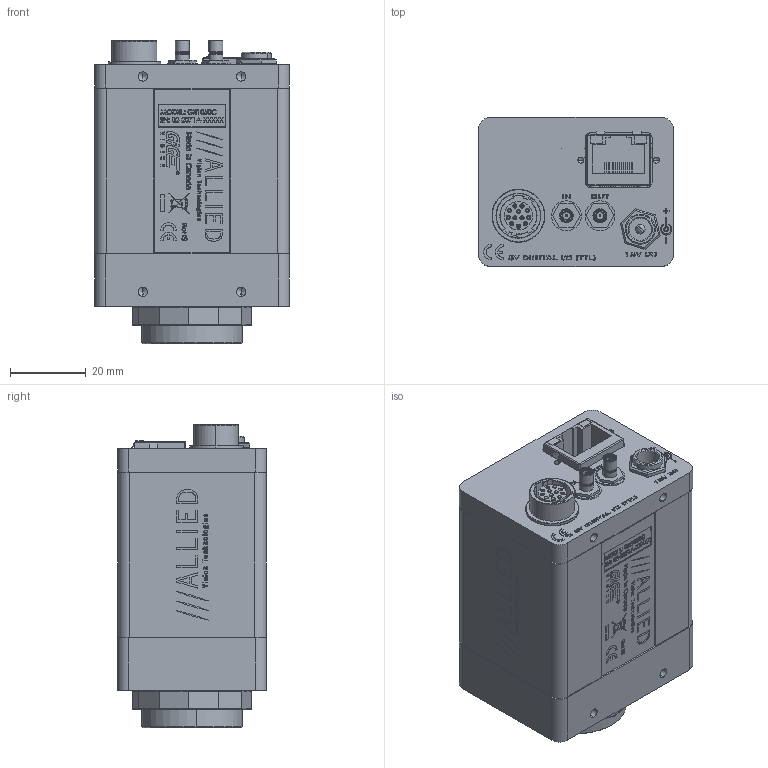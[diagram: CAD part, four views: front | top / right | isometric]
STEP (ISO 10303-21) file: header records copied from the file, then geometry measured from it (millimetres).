
FILE_DESCRIPTION (( 'STEP AP214' ), '1' );
FILE_NAME ('GE1050C.STEP', '2013-07-31T21:18:26', ( '' ), ( '' ), 'SwSTEP 2.0', 'SolidWorks 2013', '' );
FILE_SCHEMA (( 'AUTOMOTIVE_DESIGN' ));
Length unit declared in the file: millimetre
Products named in the file (37): 440002-IR CUT FILTER 22MM DIA; 140002-KEYSTONE 349; 110054AB-IR FILTER SUPPORT; 260010-HIROSE HR10A-10R-12SB NUT; 110003AC-CV CMOUNT RING; 260014-SWITCHCRAFT PC712A NUT; 110053AA-GE KODAK 2M CCD DUST SHIELD GASKET; 110033B-C GE BACK PLATE; 140000-AMPHENOL 903-10408-1; 110085A-GE1050 FRONT PLATE; 260009-AMPHENOL 903-406J-51R; 220136-KODAK KAI-01050-CBA; 100000AA-CV SMB GROUNDING ASSEMBLY; KODAK KAI-01050 WINDOW; 270006-JUMPER WIRE MODIFIED; KODAK KAI-01050 BODY; 140001-AMPHENOL 903-10409-1; 110031A-B EC-CCD LOCKING RING; 140008-washer spring lock #4; 740031B-GE SERIES LABEL; 200031B-A GE INTERFACE PCB ASSY; 110036B GE COVER EXTRUDED SHORT WITH LOGO_Finished; 260029 BELFUSE 0826-1C1T-23; 100137A - GE CAMERA BACK ASSEMBLY - for GE KODAK 1M2M; 140015-screw pan head phillips 4-40 x 0.1875; 100051B - GE BACKPLATE ASSY; 140034-SWITCHCRAFT P10149 WITH WIRE; 140007-screw socket head cap #4-40x2; 140034-SWITCHCRAFT P10149; 270006-JUMPER WIRE 18MM LONG; 740054A-A GE1050C LABEL PRINT; GE1050C; 260010-HIROSE HR10A-10R-12SB; 100104A-GE1050C FRONT ASSY; 260014-SWITCHCRAFT PC712A; 100097A-IR FILTER ASSEMBLY 0.75 INCH; 260010-HIROSE HR10A-10R-12SB WASHER
Assembly tree (50 placements, depth 5):
  GE1050C
    140007-screw socket head cap #4-40x2  x4
    100137A - GE CAMERA BACK ASSEMBLY - for GE KODAK 1M2M
      140015-screw pan head phillips 4-40 x 0.1875
      200031B-A GE INTERFACE PCB ASSY
        260029 BELFUSE 0826-1C1T-23
      140008-washer spring lock #4  x2
      100051B - GE BACKPLATE ASSY
        100000AA-CV SMB GROUNDING ASSEMBLY  x2
          140001-AMPHENOL 903-10409-1
          270006-JUMPER WIRE MODIFIED
        260009-AMPHENOL 903-406J-51R  x2
        140000-AMPHENOL 903-10408-1  x2
        110033B-C GE BACK PLATE
        260014-SWITCHCRAFT PC712A NUT
        260010-HIROSE HR10A-10R-12SB NUT
        140002-KEYSTONE 349  x4
        260010-HIROSE HR10A-10R-12SB WASHER
        260014-SWITCHCRAFT PC712A
        260010-HIROSE HR10A-10R-12SB
        140034-SWITCHCRAFT P10149 WITH WIRE
          270006-JUMPER WIRE 18MM LONG
          140034-SWITCHCRAFT P10149
    110036B GE COVER EXTRUDED SHORT WITH LOGO_Finished
    140008-washer spring lock #4  x4
    740031B-GE SERIES LABEL
    100104A-GE1050C FRONT ASSY
      110031A-B EC-CCD LOCKING RING
      220136-KODAK KAI-01050-CBA
        KODAK KAI-01050 BODY
        KODAK KAI-01050 WINDOW
      110085A-GE1050 FRONT PLATE
      110053AA-GE KODAK 2M CCD DUST SHIELD GASKET
      110003AC-CV CMOUNT RING
      100097A-IR FILTER ASSEMBLY 0.75 INCH
        110054AB-IR FILTER SUPPORT
        440002-IR CUT FILTER 22MM DIA
    740054A-A GE1050C LABEL PRINT
Bounding box: 51.56 x 39.37 x 80.32 mm (x, y, z)
Volume: 49463.1 mm3; surface area: 69670.7 mm2
Topology: 74 solids, 74 shells, 3954 faces, 9915 edges, 6467 vertices
Faces by surface type: plane 2074, bspline 887, cylinder 733, cone 260
Entity records: 185494 total; most frequent: CARTESIAN_POINT 57862, ORIENTED_EDGE 18684, DIRECTION 15038, EDGE_CURVE 9342, VERTEX_POINT 6125, LINE 6044, VECTOR 6044, AXIS2_PLACEMENT_3D 4497
